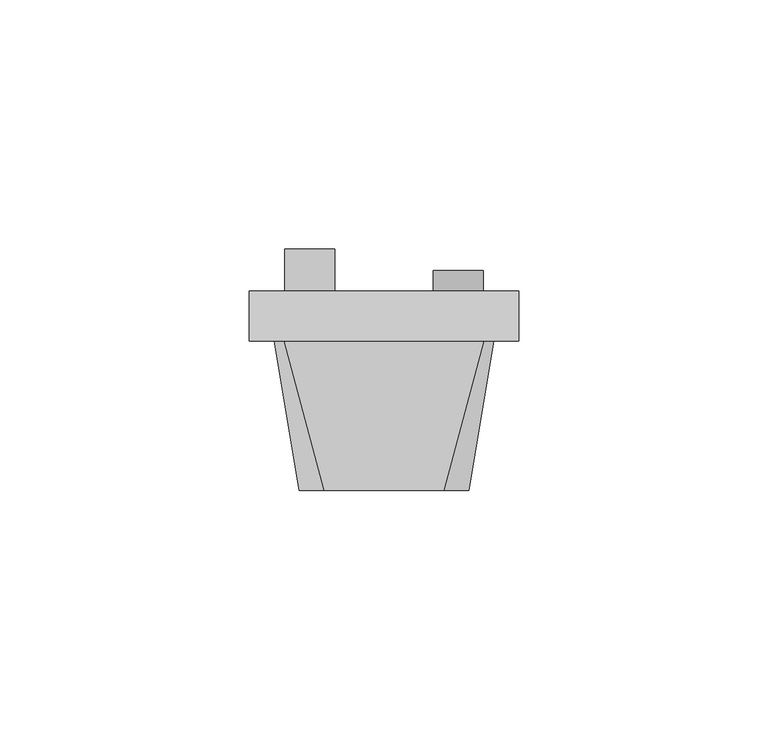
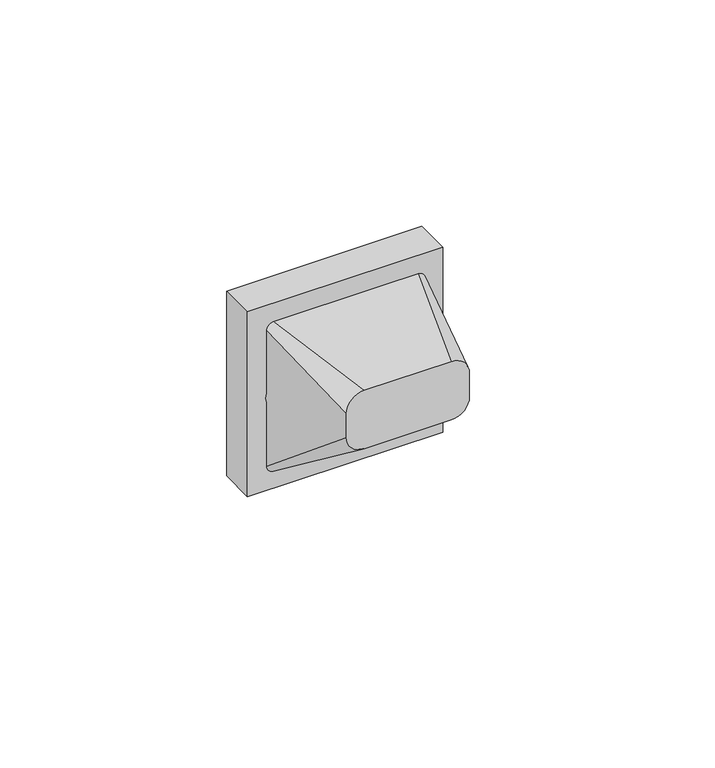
"""IFC4 building model written with IfcOpenShell, lengths in millimetres: proxy geometry, IEK_Brite_Механизм розетки мультимедийной : TV+SAT-РТВ/РСп12-БрА."""

from ifc_helpers import new_model, si_unit, frame, origin, place, context, project, spatial, polyline, circle_curve, source, transform, mapped, element, save
from ifc_brep_helpers import plane_surface, cylinder_surface, revolved_surface, spline_surface, advanced_brep


def electrical_fixtures_085c7708(model_context):
    return source(origin(), model_context, "Body", "AdvancedBrep", [
        advanced_brep(
        [(11.2075584, 9.0, 10.0), (18.53558, 9.0, 10.0), (18.53558, 9.0, 5.9644803), (11.2075584, 9.0, 5.9644803), (-18.53558, 9.0, 10.0), (-11.2075584, 9.0, 10.0), (-11.2075584, 9.0, 5.9644803), (-18.53558, 9.0, 5.9644803), (11.2075584, 10.0, 10.0), (11.2075584, 10.0, 5.9644803), (18.53558, 10.0, 10.0), (18.53558, 10.0, 5.9644803), (-18.53558, 10.0, 10.0), (-11.2075584, 10.0, 10.0), (-18.53558, 10.0, 5.9644803), (-11.2075584, 10.0, 5.9644803), (-27.0, 10.0, 27.0), (27.0, 10.0, 27.0), (27.0, 10.0, -27.0), (-27.0, 10.0, -27.0), (7.8715692, 10.0, 0.0), (21.8715692, 10.0, 0.0), (-21.8715692, 10.0, 0.0), (-7.8715692, 10.0, 0.0), (-27.0, 0.0, 27.0), (-27.0, 0.0, -27.0), (27.0, 0.0, -27.0), (27.0, 0.0, 27.0), (21.8715692, 0.0, 0.0), (7.8715692, 0.0, 0.0), (-7.8715692, 0.0, 0.0), (-21.8715692, 0.0, 0.0)],
        [
            (0, 1),
            (1, 2),
            (2, 3, circle_curve(frame((14.8715692, 9.0, 0.0), z_axis=(0.0, -1.0, 0.0), x_axis=(1.0, 0.0, 0.0)), 7.0)),
            (3, 0),
            (4, 5),
            (5, 6),
            (6, 7, circle_curve(frame((-14.8715692, 9.0, 0.0), z_axis=(0.0, -1.0, 0.0), x_axis=(1.0, 0.0, 0.0)), 7.0)),
            (7, 4),
            (8, 0),
            (3, 9),
            (9, 8),
            (1, 10),
            (10, 11),
            (11, 2),
            (8, 10),
            (4, 12),
            (12, 13),
            (13, 5),
            (7, 14),
            (14, 12),
            (13, 15),
            (15, 6),
            (16, 17),
            (17, 18),
            (18, 19),
            (19, 16),
            (9, 20, circle_curve(frame((14.8715692, 10.0, 0.0), z_axis=(0.0, -1.0, 0.0), x_axis=(1.0, 0.0, 0.0)), 7.0)),
            (20, 21, circle_curve(frame((14.8715692, 10.0, 0.0), z_axis=(0.0, -1.0, 0.0), x_axis=(1.0, 0.0, 0.0)), 7.0)),
            (21, 11, circle_curve(frame((14.8715692, 10.0, 0.0), z_axis=(0.0, -1.0, 0.0), x_axis=(1.0, 0.0, 0.0)), 7.0)),
            (14, 22, circle_curve(frame((-14.8715692, 10.0, 0.0), z_axis=(0.0, -1.0, 0.0), x_axis=(1.0, 0.0, 0.0)), 7.0)),
            (22, 23, circle_curve(frame((-14.8715692, 10.0, 0.0), z_axis=(0.0, -1.0, 0.0), x_axis=(1.0, 0.0, 0.0)), 7.0)),
            (23, 15, circle_curve(frame((-14.8715692, 10.0, 0.0), z_axis=(0.0, -1.0, 0.0), x_axis=(1.0, 0.0, 0.0)), 7.0)),
            (24, 25),
            (25, 26),
            (26, 27),
            (27, 24),
            (28, 29, circle_curve(frame((14.8715692, 0.0, 0.0), z_axis=(0.0, 1.0, 0.0), x_axis=(1.0, 0.0, 0.0)), 7.0)),
            (29, 28, circle_curve(frame((14.8715692, 0.0, 0.0), z_axis=(0.0, 1.0, 0.0), x_axis=(1.0, 0.0, 0.0)), 7.0)),
            (30, 31, circle_curve(frame((-14.8715692, 0.0, 0.0), z_axis=(0.0, 1.0, 0.0), x_axis=(1.0, 0.0, 0.0)), 7.0)),
            (31, 30, circle_curve(frame((-14.8715692, 0.0, 0.0), z_axis=(0.0, 1.0, 0.0), x_axis=(1.0, 0.0, 0.0)), 7.0)),
            (19, 25),
            (24, 16),
            (18, 26),
            (17, 27),
            (28, 21),
            (20, 29),
            (30, 23),
            (22, 31),
        ],
        [
            plane_surface(frame((11.2075584, 9.0, 8.2474839), z_axis=(0.0, 1.0, 0.0), x_axis=(0.0, 0.0, -1.0))),
            plane_surface(frame((11.2075584, 9.0, 10.0), z_axis=(1.0, 0.0, 0.0), x_axis=(0.0, 1.0, 0.0))),
            plane_surface(frame((18.53558, 9.0, 4.8456457), z_axis=(-1.0, 0.0, 0.0), x_axis=(0.0, 1.0, 0.0))),
            plane_surface(frame((18.53558, 9.0, 10.0), z_axis=(0.0, 0.0, -1.0), x_axis=(0.0, 1.0, 0.0))),
            plane_surface(frame((-11.2075584, 9.0, 10.0), z_axis=(0.0, 0.0, -1.0), x_axis=(0.0, 1.0, 0.0))),
            plane_surface(frame((-18.53558, 9.0, 10.0), z_axis=(1.0, 0.0, 0.0), x_axis=(0.0, 1.0, 0.0))),
            plane_surface(frame((-11.2075584, 9.0, 4.8456457), z_axis=(-1.0, 0.0, 0.0), x_axis=(0.0, 1.0, 0.0))),
            plane_surface(frame((-27.0, 10.0, -27.0), z_axis=(0.0, 1.0, 0.0), x_axis=(0.0, 0.0, 1.0))),
            plane_surface(frame((-27.0, 0.0, -27.0), z_axis=(0.0, -1.0, 0.0), x_axis=(0.0, 0.0, -1.0))),
            plane_surface(frame((-27.0, 0.0, 27.0), z_axis=(-1.0, 0.0, 0.0), x_axis=(0.0, 1.0, 0.0))),
            plane_surface(frame((-27.0, 0.0, -27.0), z_axis=(0.0, 0.0, -1.0), x_axis=(0.0, 1.0, 0.0))),
            plane_surface(frame((27.0, 0.0, -27.0), z_axis=(1.0, 0.0, 0.0), x_axis=(0.0, 1.0, 0.0))),
            plane_surface(frame((27.0, 0.0, 27.0), z_axis=(0.0, 0.0, 1.0), x_axis=(0.0, 1.0, 0.0))),
            revolved_surface(polyline([(21.8715692, 0.0, 0.0), (21.8715692, 10.0, 0.0)]), (14.8715692, 10.0, 0.0), (0.0, -1.0, 0.0)),
            revolved_surface(polyline([(-7.8715692, 0.0, 0.0), (-7.8715692, 10.0, 0.0)]), (-14.8715692, -3.0, 0.0), (0.0, -1.0, 0.0)),
        ],
        [
            (0, [[1, 2, 3, 4]]),
            (0, [[5, 6, 7, 8]]),
            (1, [[9, -4, 10, 11]]),
            (2, [[12, 13, 14, -2]]),
            (3, [[-1, -9, 15, -12]]),
            (4, [[-5, 16, 17, 18]]),
            (5, [[-16, -8, 19, 20]]),
            (6, [[-18, 21, 22, -6]]),
            (7, [[23, 24, 25, 26], [-15, -11, 27, 28, 29, -13], [-17, -20, 30, 31, 32, -21]]),
            (8, [[33, 34, 35, 36], [37, 38], [39, 40]]),
            (9, [[-26, 41, -33, 42]]),
            (10, [[-25, 43, -34, -41]]),
            (11, [[-24, 44, -35, -43]]),
            (12, [[-23, -42, -36, -44]]),
            (13, [[45, -28, 46, -37]]),
            (13, [[-45, -38, -46, -27, -10, -3, -14, -29]]),
            (14, [[47, -31, 48, -39]]),
            (14, [[-47, -40, -48, -30, -19, -7, -22, -32]]),
        ],
    ),
        advanced_brep(
        [(-12.0, -30.0, 17.0), (-17.0, -30.0, 12.0), (-17.0, -30.0, 5.0), (-12.0, -30.0, 0.0), (12.0, -30.0, 0.0), (17.0, -30.0, 5.0), (17.0, -30.0, 12.0), (12.0, -30.0, 17.0), (-20.0, 0.0, 22.0), (20.0, 0.0, 22.0), (22.0, 0.0, 20.0), (22.0, 0.0, -20.0), (20.0, 0.0, -22.0), (-20.0, 0.0, -22.0), (-22.0, 0.0, -20.0), (-22.0, 0.0, 20.0)],
        [
            (0, 1, circle_curve(frame((-12.0, -30.0, 12.0), z_axis=(0.0, -1.0, 0.0), x_axis=(1.0, 0.0, 0.0)), 5.0)),
            (1, 2),
            (2, 3, circle_curve(frame((-12.0, -30.0, 5.0), z_axis=(0.0, -1.0, 0.0), x_axis=(1.0, 0.0, 0.0)), 5.0)),
            (3, 4),
            (4, 5, circle_curve(frame((12.0, -30.0, 5.0), z_axis=(0.0, -1.0, 0.0), x_axis=(1.0, 0.0, 0.0)), 5.0)),
            (5, 6),
            (6, 7, circle_curve(frame((12.0, -30.0, 12.0), z_axis=(0.0, -1.0, 0.0), x_axis=(1.0, 0.0, 0.0)), 5.0)),
            (7, 0),
            (8, 9),
            (9, 10, circle_curve(frame((20.0, 0.0, 20.0), z_axis=(0.0, 1.0, 0.0), x_axis=(1.0, 0.0, 0.0)), 2.0)),
            (10, 11),
            (11, 12, circle_curve(frame((20.0, 0.0, -20.0), z_axis=(0.0, 1.0, 0.0), x_axis=(1.0, 0.0, 0.0)), 2.0)),
            (12, 13),
            (13, 14, circle_curve(frame((-20.0, 0.0, -20.0), z_axis=(0.0, 1.0, 0.0), x_axis=(1.0, 0.0, 0.0)), 2.0)),
            (14, 15),
            (15, 8, circle_curve(frame((-20.0, 0.0, 20.0), z_axis=(0.0, 1.0, 0.0), x_axis=(1.0, 0.0, 0.0)), 2.0)),
            (8, 0),
            (7, 9),
            (6, 10),
            (5, 11),
            (4, 12),
            (3, 13),
            (2, 14),
            (1, 15),
        ],
        [
            plane_surface(frame((0.0, -30.0, 8.5), z_axis=(0.0, -1.0, 0.0), x_axis=(-1.0, 0.0, 0.0))),
            plane_surface(frame((0.0, 0.0, 0.0), z_axis=(0.0, 1.0, 0.0), x_axis=(-1.0, 0.0, 0.0))),
            plane_surface(frame((0.0, 0.0, 22.0), z_axis=(0.0, -0.16439898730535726, 0.9863939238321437), x_axis=(-1.0, 0.0, 0.0))),
            spline_surface(2, 1, [[(22.0, 0.0, 20.0), (17.0, -30.0, 12.0)], [(22.0, 0.0, 22.0), (17.0, -30.0, 17.0)], [(20.0, 0.0, 22.0), (12.0, -30.0, 17.0)]], [3, 3], [2, 2], [0.0, 1.0], [0.0, 1.0], weights=[[1.0, 1.0], [0.7071067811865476, 0.7071067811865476], [1.0, 1.0]]),
            plane_surface(frame((22.0, 0.0, 0.0), z_axis=(0.9863939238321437, -0.1643989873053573, 0.0), x_axis=(0.0, 0.0, 1.0))),
            spline_surface(2, 1, [[(20.0, 0.0, -22.0), (12.0, -30.0, 0.0)], [(22.0, 0.0, -22.0), (17.0, -30.0, 0.0)], [(22.0, 0.0, -20.0), (17.0, -30.0, 5.0)]], [3, 3], [2, 2], [0.0, 1.0], [0.0, 1.0], weights=[[1.0, 1.0], [0.7071067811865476, 0.7071067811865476], [1.0, 1.0]]),
            plane_surface(frame((0.0, 0.0, -22.0), z_axis=(0.0, -0.591363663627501, -0.8064049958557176), x_axis=(1.0, 0.0, 0.0))),
            spline_surface(2, 1, [[(-22.0, 0.0, -20.0), (-17.0, -30.0, 5.0)], [(-22.0, 0.0, -22.0), (-17.0, -30.0, 0.0)], [(-20.0, 0.0, -22.0), (-12.0, -30.0, 0.0)]], [3, 3], [2, 2], [0.0, 1.0], [0.0, 1.0], weights=[[1.0, 1.0], [0.7071067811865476, 0.7071067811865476], [1.0, 1.0]]),
            plane_surface(frame((-22.0, 0.0, 0.0), z_axis=(-0.9863939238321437, -0.1643989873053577, 0.0), x_axis=(0.0, 0.0, -1.0))),
            spline_surface(2, 1, [[(-20.0, 0.0, 22.0), (-12.0, -30.0, 17.0)], [(-22.0, 0.0, 22.0), (-17.0, -30.0, 17.0)], [(-22.0, 0.0, 20.0), (-17.0, -30.0, 12.0)]], [3, 3], [2, 2], [0.0, 1.0], [0.0, 1.0], weights=[[1.0, 1.0], [0.7071067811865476, 0.7071067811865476], [1.0, 1.0]]),
        ],
        [
            (0, [[1, 2, 3, 4, 5, 6, 7, 8]]),
            (1, [[9, 10, 11, 12, 13, 14, 15, 16]]),
            (2, [[-9, 17, -8, 18]]),
            (3, [[-10, -18, -7, 19]]),
            (4, [[-11, -19, -6, 20]]),
            (5, [[-12, -20, -5, 21]]),
            (6, [[-13, -21, -4, 22]]),
            (7, [[-14, -22, -3, 23]]),
            (8, [[-15, -23, -2, 24]]),
            (9, [[-16, -24, -1, -17]]),
        ],
    ),
        advanced_brep(
        [(13.8171946, 8.9251664, 0.0), (15.9259438, 8.9251664, 0.0), (18.7127862, 8.9251664, 0.0), (11.0303521, 8.9251664, 0.0), (18.7127862, 0.0, 0.0), (11.0303521, 0.0, 0.0), (15.9259438, 0.0, 0.0), (13.8171946, 0.0, 0.0)],
        [
            (0, 1, circle_curve(frame((14.8715692, 8.9251664, 0.0), z_axis=(0.0, -1.0, 0.0), x_axis=(1.0, 0.0, 0.0)), 1.0543746)),
            (1, 2),
            (2, 3, circle_curve(frame((14.8715692, 8.9251664, 0.0), z_axis=(0.0, 1.0, 0.0), x_axis=(1.0, 0.0, 0.0)), 3.8412171)),
            (3, 0),
            (1, 0, circle_curve(frame((14.8715692, 8.9251664, 0.0), z_axis=(0.0, -1.0, 0.0), x_axis=(1.0, 0.0, 0.0)), 1.0543746)),
            (3, 2, circle_curve(frame((14.8715692, 8.9251664, 0.0), z_axis=(0.0, 1.0, 0.0), x_axis=(1.0, 0.0, 0.0)), 3.8412171)),
            (2, 4),
            (4, 5, circle_curve(frame((14.8715692, 0.0, 0.0), z_axis=(0.0, 1.0, 0.0), x_axis=(1.0, 0.0, 0.0)), 3.8412171)),
            (5, 3),
            (5, 4, circle_curve(frame((14.8715692, 0.0, 0.0), z_axis=(0.0, 1.0, 0.0), x_axis=(1.0, 0.0, 0.0)), 3.8412171)),
            (4, 6),
            (6, 7, circle_curve(frame((14.8715692, 0.0, 0.0), z_axis=(0.0, 1.0, 0.0), x_axis=(1.0, 0.0, 0.0)), 1.0543746)),
            (7, 5),
            (7, 6, circle_curve(frame((14.8715692, 0.0, 0.0), z_axis=(0.0, 1.0, 0.0), x_axis=(1.0, 0.0, 0.0)), 1.0543746)),
            (6, 1),
            (0, 7),
        ],
        [
            plane_surface(frame((14.8715692, 8.9251664, 0.0), z_axis=(0.0, 1.0, 0.0), x_axis=(1.0, 0.0, 0.0))),
            cylinder_surface(frame((14.8715692, 0.0, 0.0), z_axis=(0.0, 1.0, 0.0), x_axis=(1.0, 0.0, 0.0)), 3.8412171),
            plane_surface(frame((14.8715692, 0.0, 0.0), z_axis=(0.0, -1.0, 0.0), x_axis=(1.0, 0.0, 0.0))),
            revolved_surface(polyline([(15.925943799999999, 8.9251664, 0.0), (15.925943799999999, 0.0, 0.0)]), (14.8715692, 0.0, 0.0), (0.0, 1.0, 0.0)),
        ],
        [
            (0, [[1, 2, 3, 4]]),
            (0, [[5, -4, 6, -2]]),
            (1, [[-3, 7, 8, 9]]),
            (1, [[-6, -9, 10, -7]]),
            (2, [[-8, 11, 12, 13]]),
            (2, [[-10, -13, 14, -11]]),
            (3, [[-12, 15, -1, 16]]),
            (3, [[-14, -16, -5, -15]]),
        ],
    ),
        advanced_brep(
        [(14.8715692, 13.2712404, 0.0), (15.7742181, 13.2712404, 0.0), (13.9689203, 13.2712404, 0.0), (13.9689203, 0.0, 0.0), (15.7742181, 0.0, 0.0), (14.8715692, 0.0, 0.0)],
        [
            (0, 1),
            (1, 2, circle_curve(frame((14.8715692, 13.2712404, 0.0), z_axis=(0.0, 1.0, 0.0), x_axis=(1.0, 0.0, 0.0)), 0.9026489)),
            (2, 0),
            (2, 1, circle_curve(frame((14.8715692, 13.2712404, 0.0), z_axis=(0.0, 1.0, 0.0), x_axis=(1.0, 0.0, 0.0)), 0.9026489)),
            (3, 4, circle_curve(frame((14.8715692, 0.0, 0.0), z_axis=(0.0, -1.0, 0.0), x_axis=(1.0, 0.0, 0.0)), 0.9026489)),
            (4, 5),
            (5, 3),
            (4, 3, circle_curve(frame((14.8715692, 0.0, 0.0), z_axis=(0.0, -1.0, 0.0), x_axis=(1.0, 0.0, 0.0)), 0.9026489)),
            (1, 4),
            (3, 2),
        ],
        [
            plane_surface(frame((14.8715692, 13.2712404, 0.0), z_axis=(0.0, 1.0, 0.0), x_axis=(1.0, 0.0, 0.0))),
            plane_surface(frame((14.8715692, 0.0, 0.0), z_axis=(0.0, -1.0, 0.0), x_axis=(1.0, 0.0, 0.0))),
            cylinder_surface(frame((14.8715692, 0.0, 0.0), z_axis=(0.0, 1.0, 0.0), x_axis=(1.0, 0.0, 0.0)), 0.9026489),
        ],
        [
            (0, [[1, 2, 3]]),
            (0, [[-3, 4, -1]]),
            (1, [[5, 6, 7]]),
            (1, [[8, -7, -6]]),
            (2, [[-2, 9, -5, 10]]),
            (2, [[-4, -10, -8, -9]]),
        ],
    ),
        advanced_brep(
        [(9.8715692, 0.0, 0.0), (19.8715692, 0.0, 0.0), (18.8920998, 0.0, 0.0), (10.8510386, 0.0, 0.0), (18.8920998, 11.0, 0.0), (10.8510386, 11.0, 0.0), (18.8920998, 14.1430385, 0.0), (10.8510386, 14.1430385, 0.0), (19.8715692, 14.1430385, 0.0), (9.8715692, 14.1430385, 0.0)],
        [
            (0, 1, circle_curve(frame((14.8715692, 0.0, 0.0), z_axis=(0.0, -1.0, 0.0), x_axis=(1.0, 0.0, 0.0)), 5.0)),
            (1, 2),
            (2, 3, circle_curve(frame((14.8715692, 0.0, 0.0), z_axis=(0.0, 1.0, 0.0), x_axis=(1.0, 0.0, 0.0)), 4.0205306)),
            (3, 0),
            (1, 0, circle_curve(frame((14.8715692, 0.0, 0.0), z_axis=(0.0, -1.0, 0.0), x_axis=(1.0, 0.0, 0.0)), 5.0)),
            (3, 2, circle_curve(frame((14.8715692, 0.0, 0.0), z_axis=(0.0, 1.0, 0.0), x_axis=(1.0, 0.0, 0.0)), 4.0205306)),
            (2, 4),
            (4, 5, circle_curve(frame((14.8715692, 11.0, 0.0), z_axis=(0.0, 1.0, 0.0), x_axis=(1.0, 0.0, 0.0)), 4.0205306)),
            (5, 3),
            (5, 4, circle_curve(frame((14.8715692, 11.0, 0.0), z_axis=(0.0, 1.0, 0.0), x_axis=(1.0, 0.0, 0.0)), 4.0205306)),
            (4, 6),
            (6, 7, circle_curve(frame((14.8715692, 14.1430385, 0.0), z_axis=(0.0, 1.0, 0.0), x_axis=(1.0, 0.0, 0.0)), 4.0205306)),
            (7, 5),
            (7, 6, circle_curve(frame((14.8715692, 14.1430385, 0.0), z_axis=(0.0, 1.0, 0.0), x_axis=(1.0, 0.0, 0.0)), 4.0205306)),
            (6, 8),
            (8, 9, circle_curve(frame((14.8715692, 14.1430385, 0.0), z_axis=(0.0, 1.0, 0.0), x_axis=(1.0, 0.0, 0.0)), 5.0)),
            (9, 7),
            (9, 8, circle_curve(frame((14.8715692, 14.1430385, 0.0), z_axis=(0.0, 1.0, 0.0), x_axis=(1.0, 0.0, 0.0)), 5.0)),
            (8, 1),
            (0, 9),
        ],
        [
            plane_surface(frame((14.8715692, 0.0, 0.0), z_axis=(0.0, -1.0, 0.0), x_axis=(1.0, 0.0, 0.0))),
            revolved_surface(polyline([(18.8920998, 11.0, 0.0), (18.8920998, 0.0, 0.0)]), (14.8715692, 10.0, 0.0), (0.0, 1.0, 0.0)),
            revolved_surface(polyline([(18.8920998, 14.1430385, 0.0), (18.8920998, 11.0, 0.0)]), (14.8715692, 10.0, 0.0), (0.0, 1.0, 0.0)),
            plane_surface(frame((14.8715692, 14.1430385, 0.0), z_axis=(0.0, 1.0, 0.0), x_axis=(1.0, 0.0, 0.0))),
            cylinder_surface(frame((14.8715692, 10.0, 0.0), z_axis=(0.0, 1.0, 0.0), x_axis=(1.0, 0.0, 0.0)), 5.0),
        ],
        [
            (0, [[1, 2, 3, 4]]),
            (0, [[5, -4, 6, -2]]),
            (1, [[-3, 7, 8, 9]]),
            (1, [[-6, -9, 10, -7]]),
            (2, [[-8, 11, 12, 13]]),
            (2, [[-10, -13, 14, -11]]),
            (3, [[-12, 15, 16, 17]]),
            (3, [[-14, -17, 18, -15]]),
            (4, [[-16, 19, -1, 20]]),
            (4, [[-18, -20, -5, -19]]),
        ],
    ),
        advanced_brep(
        [(-12.458782, 17.9212356, 0.0), (-17.2843563, 17.9212356, 0.0), (-15.9259438, 17.9212356, 0.0), (-13.8171946, 17.9212356, 0.0), (-12.458782, 0.0, 0.0), (-17.2843563, 0.0, 0.0), (-13.8171946, 0.0, 0.0), (-15.9259438, 0.0, 0.0)],
        [
            (0, 1, circle_curve(frame((-14.8715692, 17.9212356, 0.0), z_axis=(0.0, 1.0, 0.0), x_axis=(-1.0, 0.0, 0.0)), 2.4127872)),
            (1, 2),
            (2, 3, circle_curve(frame((-14.8715692, 17.9212356, 0.0), z_axis=(0.0, -1.0, 0.0), x_axis=(-1.0, 0.0, 0.0)), 1.0543746)),
            (3, 0),
            (1, 0, circle_curve(frame((-14.8715692, 17.9212356, 0.0), z_axis=(0.0, 1.0, 0.0), x_axis=(-1.0, 0.0, 0.0)), 2.4127872)),
            (3, 2, circle_curve(frame((-14.8715692, 17.9212356, 0.0), z_axis=(0.0, -1.0, 0.0), x_axis=(-1.0, 0.0, 0.0)), 1.0543746)),
            (4, 5, circle_curve(frame((-14.8715692, 0.0, 0.0), z_axis=(0.0, 1.0, 0.0), x_axis=(-1.0, 0.0, 0.0)), 2.4127872)),
            (5, 1),
            (0, 4),
            (5, 4, circle_curve(frame((-14.8715692, 0.0, 0.0), z_axis=(0.0, 1.0, 0.0), x_axis=(-1.0, 0.0, 0.0)), 2.4127872)),
            (6, 7, circle_curve(frame((-14.8715692, 0.0, 0.0), z_axis=(0.0, 1.0, 0.0), x_axis=(-1.0, 0.0, 0.0)), 1.0543746)),
            (7, 5),
            (4, 6),
            (7, 6, circle_curve(frame((-14.8715692, 0.0, 0.0), z_axis=(0.0, 1.0, 0.0), x_axis=(-1.0, 0.0, 0.0)), 1.0543746)),
            (2, 7),
            (6, 3),
        ],
        [
            plane_surface(frame((-14.8715692, 17.9212356, 0.0), z_axis=(0.0, 1.0, 0.0), x_axis=(-1.0, 0.0, 0.0))),
            cylinder_surface(frame((-14.8715692, 0.0, 0.0), z_axis=(0.0, -1.0, 0.0), x_axis=(-1.0, 0.0, 0.0)), 2.4127872),
            plane_surface(frame((-14.8715692, 0.0, 0.0), z_axis=(0.0, -1.0, 0.0), x_axis=(-1.0, 0.0, 0.0))),
            revolved_surface(polyline([(-15.925943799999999, 0.0, 0.0), (-15.925943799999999, 17.9212356, 0.0)]), (-14.8715692, 0.0, 0.0), (0.0, -1.0, 0.0)),
        ],
        [
            (0, [[1, 2, 3, 4]]),
            (0, [[5, -4, 6, -2]]),
            (1, [[7, 8, -1, 9]]),
            (1, [[10, -9, -5, -8]]),
            (2, [[11, 12, -7, 13]]),
            (2, [[14, -13, -10, -12]]),
            (3, [[-3, 15, -11, 16]]),
            (3, [[-6, -16, -14, -15]]),
        ],
    ),
        advanced_brep(
        [(-12.458782, 0.0, 0.0), (-17.2843563, 0.0, 0.0), (-19.8715692, 0.0, 0.0), (-9.8715692, 0.0, 0.0), (-12.458782, 11.0, 0.0), (-17.2843563, 11.0, 0.0), (-12.458782, 18.4035586, 0.0), (-17.2843563, 18.4035586, 0.0), (-9.8715692, 18.4035586, 0.0), (-19.8715692, 18.4035586, 0.0)],
        [
            (0, 1, circle_curve(frame((-14.8715692, 0.0, 0.0), z_axis=(0.0, 1.0, 0.0), x_axis=(-1.0, 0.0, 0.0)), 2.4127872)),
            (1, 2),
            (2, 3, circle_curve(frame((-14.8715692, 0.0, 0.0), z_axis=(0.0, -1.0, 0.0), x_axis=(-1.0, 0.0, 0.0)), 5.0)),
            (3, 0),
            (1, 0, circle_curve(frame((-14.8715692, 0.0, 0.0), z_axis=(0.0, 1.0, 0.0), x_axis=(-1.0, 0.0, 0.0)), 2.4127872)),
            (3, 2, circle_curve(frame((-14.8715692, 0.0, 0.0), z_axis=(0.0, -1.0, 0.0), x_axis=(-1.0, 0.0, 0.0)), 5.0)),
            (4, 5, circle_curve(frame((-14.8715692, 11.0, 0.0), z_axis=(0.0, 1.0, 0.0), x_axis=(-1.0, 0.0, 0.0)), 2.4127872)),
            (5, 1),
            (0, 4),
            (5, 4, circle_curve(frame((-14.8715692, 11.0, 0.0), z_axis=(0.0, 1.0, 0.0), x_axis=(-1.0, 0.0, 0.0)), 2.4127872)),
            (6, 7, circle_curve(frame((-14.8715692, 18.4035586, 0.0), z_axis=(0.0, 1.0, 0.0), x_axis=(-1.0, 0.0, 0.0)), 2.4127872)),
            (7, 5),
            (4, 6),
            (7, 6, circle_curve(frame((-14.8715692, 18.4035586, 0.0), z_axis=(0.0, 1.0, 0.0), x_axis=(-1.0, 0.0, 0.0)), 2.4127872)),
            (8, 9, circle_curve(frame((-14.8715692, 18.4035586, 0.0), z_axis=(0.0, 1.0, 0.0), x_axis=(-1.0, 0.0, 0.0)), 5.0)),
            (9, 7),
            (6, 8),
            (9, 8, circle_curve(frame((-14.8715692, 18.4035586, 0.0), z_axis=(0.0, 1.0, 0.0), x_axis=(-1.0, 0.0, 0.0)), 5.0)),
            (2, 9),
            (8, 3),
        ],
        [
            plane_surface(frame((-14.8715692, 0.0, 0.0), z_axis=(0.0, -1.0, 0.0), x_axis=(-1.0, 0.0, 0.0))),
            revolved_surface(polyline([(-17.2843564, 0.0, 0.0), (-17.2843564, 11.0, 0.0)]), (-14.8715692, 10.0, 0.0), (0.0, -1.0, 0.0)),
            revolved_surface(polyline([(-17.2843564, 11.0, 0.0), (-17.2843564, 18.4035586, 0.0)]), (-14.8715692, 10.0, 0.0), (0.0, -1.0, 0.0)),
            plane_surface(frame((-14.8715692, 18.4035586, 0.0), z_axis=(0.0, 1.0, 0.0), x_axis=(-1.0, 0.0, 0.0))),
            cylinder_surface(frame((-14.8715692, 10.0, 0.0), z_axis=(0.0, -1.0, 0.0), x_axis=(-1.0, 0.0, 0.0)), 5.0),
        ],
        [
            (0, [[1, 2, 3, 4]]),
            (0, [[5, -4, 6, -2]]),
            (1, [[7, 8, -1, 9]]),
            (1, [[10, -9, -5, -8]]),
            (2, [[11, 12, -7, 13]]),
            (2, [[14, -13, -10, -12]]),
            (3, [[15, 16, -11, 17]]),
            (3, [[18, -17, -14, -16]]),
            (4, [[-3, 19, -15, 20]]),
            (4, [[-6, -20, -18, -19]]),
        ],
    ),
    ])


if __name__ == "__main__":
    model = new_model("IFC4")
    model_context = context("Model", 3, world=origin())
    ifc_project = project(units=[si_unit("LENGTHUNIT", "METRE", prefix="MILLI")], contexts=[model_context])
    site = spatial("IfcSite", under=ifc_project)
    building = spatial("IfcBuilding", under=site)
    placement = place(None, origin())
    electrical_fixtures_shape = electrical_fixtures_085c7708(model_context)
    element("IfcBuildingElementProxy", 1, Name="IEK_Brite_Механизм розетки мультимедийной : TV+SAT-РТВ/РСп12-БрА", ObjectType="IEK_Brite_Механизм розетки мультимедийной : TV+SAT-РТВ/РСп12-БрА", at=placement, inside=building, context=model_context, shape_type="MappedRepresentation", body=[
        mapped(electrical_fixtures_shape, transform((0.0, 0.0, 0.0), x_axis=(1.0, 0.0, 0.0), y_axis=(0.0, 1.0, 0.0), z_axis=(0.0, 0.0, 1.0))),
    ])
    save(model, "model.ifc")
